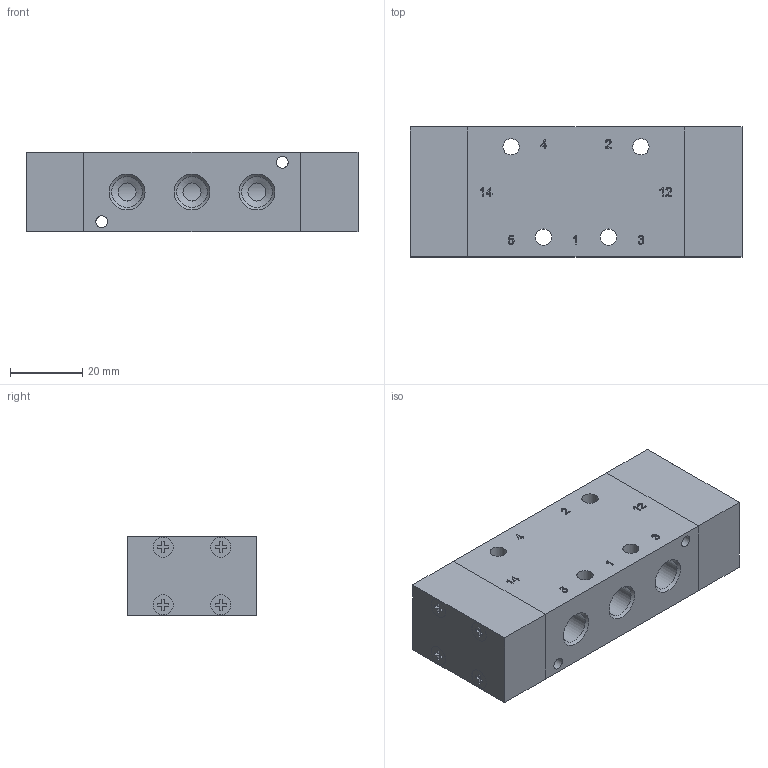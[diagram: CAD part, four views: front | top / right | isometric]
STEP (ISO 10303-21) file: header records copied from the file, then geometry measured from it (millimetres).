
FILE_DESCRIPTION(/* description */ ('Unknown'),/* implementation_level */ '2;1');
FILE_NAME(/* name */ 'P 520 501 G TT',/* time_stamp */ '2018-05-28T06:59:18+02:00',/* author */ ('Unknown'),/* organization */ ('Unknown'),/* preprocessor_version */ 'ST-DEVELOPER v16.7',/* originating_system */ 'DEX',/* authorisation */ $);
FILE_SCHEMA (('AUTOMOTIVE_DESIGN {1 0 10303 214 3 1 1}'));
Length unit declared in the file: millimetre
Products named in the file (2): P 520 501 G TT
Assembly tree (1 placements, depth 2):
  P 520 501 G TT
    P 520 501 G TT
Bounding box: 92 x 36 x 22 mm (x, y, z)
Volume: 59318 mm3; surface area: 21567.6 mm2
Topology: 3 solids, 3 shells, 450 faces, 1191 edges, 791 vertices
Faces by surface type: plane 280, bspline 71, cylinder 69, cone 30
Full cylindrical faces by diameter (mm): 2.459 x16, 2.5 x2, 3.3 x2, 4.5 x4, 5 x5, 5.6 x8, 8.566 x14, 12 x3
Entity records: 17318 total; most frequent: CARTESIAN_POINT 3916, ORIENTED_EDGE 2124, DIRECTION 1789, EDGE_CURVE 1062, LINE 771, VECTOR 771, VERTEX_POINT 754, FACE_BOUND 618
